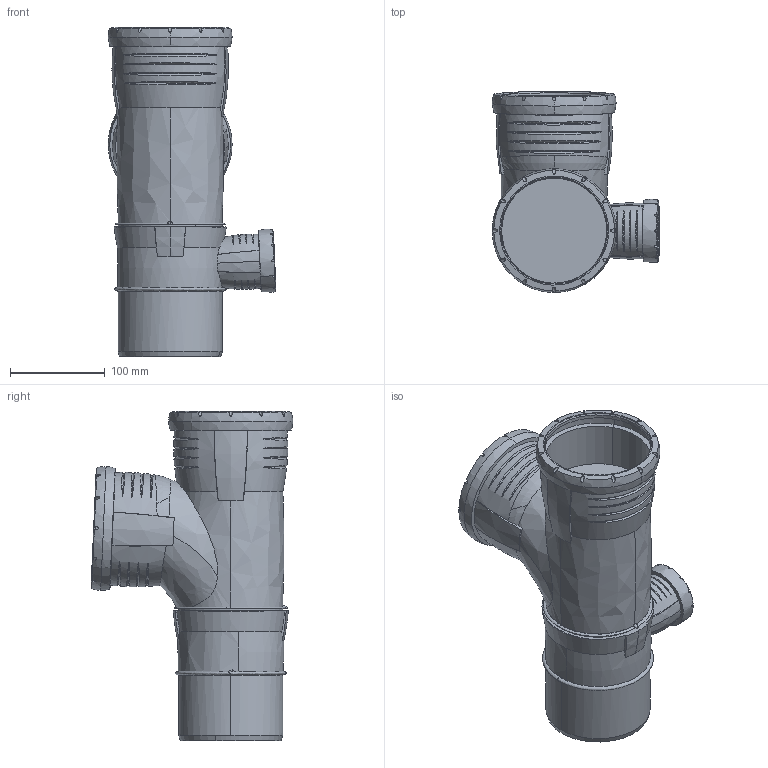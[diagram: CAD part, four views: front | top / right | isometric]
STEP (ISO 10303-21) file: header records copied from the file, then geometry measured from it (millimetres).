
FILE_DESCRIPTION(('CAx-IF Rec.Pracs.---Model Styling and Organization---1.2---2011-12-15','CAx-IF Rec.Pracs.---Geometric and Assembly Validation Properties---4.3---2015-07-16','CAx-IF Rec.Pracs.---Representation and Presentation of Product Manufacturing Information (PMI)---4.0.3---2016-08-25'),'2;1');
FILE_NAME('393578.stp','2025-11-19T15:14:01+01:00',(''),(''),'STEP Interface 4.7 SP2 by CT CoreTechnologie','3D_Analyzer4.7 SP2 by CT CoreTechnologie','');
FILE_SCHEMA(('AP203_CONFIGURATION_CONTROLLED_3D_DESIGN_OF_MECHANICAL_PARTS_AND_ASSEMBLIES_MIM_LF'));
Length unit declared in the file: millimetre
Products named in the file (1): 393578
Bounding box: 177.11 x 212.88 x 347.7 mm (x, y, z)
Surface area: 295717.7 mm2 (no closed solid volume)
Topology: 0 solids, 1 shells, 297 faces, 881 edges, 611 vertices
Faces by surface type: bspline 200, plane 72, cylinder 25
Entity records: 22465 total; most frequent: CARTESIAN_POINT 9531, ORIENTED_EDGE 1748, DIRECTION 1292, EDGE_CURVE 874, VERTEX_POINT 609, PROPERTY_DEFINITION 595, AXIS2_PLACEMENT_3D 520, CIRCLE 422
